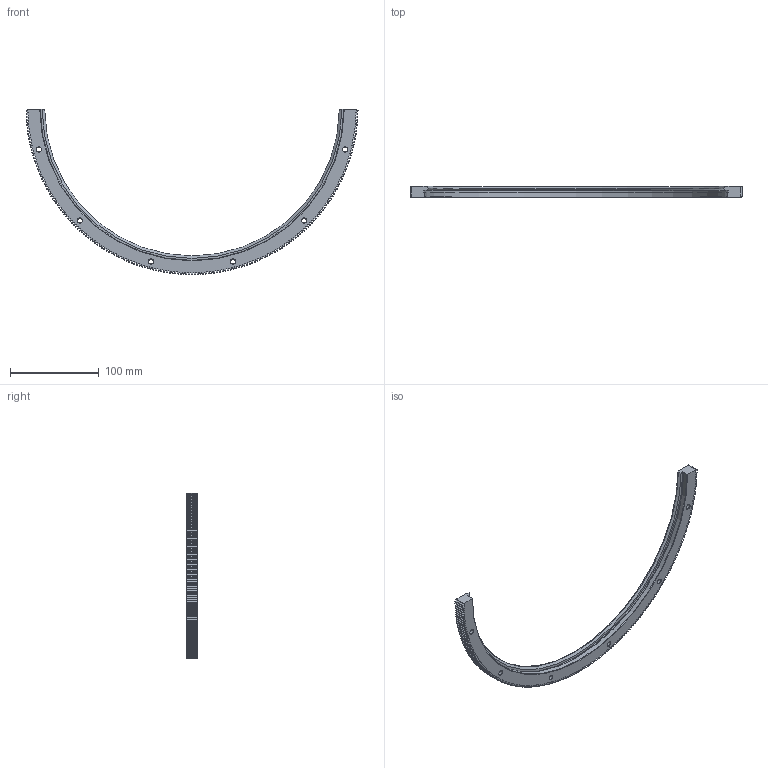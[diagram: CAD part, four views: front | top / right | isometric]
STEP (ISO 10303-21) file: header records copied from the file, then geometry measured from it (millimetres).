
FILE_DESCRIPTION( ( 'STEP AP203' ), '1' );
FILE_NAME( 'p:/temp/worker_77/temp/exporttempdir_3720_857_aK9yK/format_0/RIS 374 R180 P.stp', '2021-09-01T01:44:25', ( 'License CC BY-ND 4.0' ), ( 'CADENAS' ), ' ', 'PARTsolutions', ' ' );
FILE_SCHEMA( ( 'CONFIG_CONTROL_DESIGN' ) );
Length unit declared in the file: millimetre
Products named in the file (1): _RIS 374 R180 P
Bounding box: 373.96 x 12.25 x 186 mm (x, y, z)
Volume: 106978.6 mm3; surface area: 43437.3 mm2
Topology: 1 solids, 1 shells, 1150 faces, 3420 edges, 2278 vertices
Faces by surface type: plane 756, cylinder 199, cone 194, torus 1
Full cylindrical faces by diameter (mm): 5.5 x6, 10 x6
Entity records: 38678 total; most frequent: CARTESIAN_POINT 7977, ORIENTED_EDGE 6804, DIRECTION 5920, EDGE_CURVE 3402, LINE 2430, VECTOR 2430, VERTEX_POINT 2278, AXIS2_PLACEMENT_3D 1745
